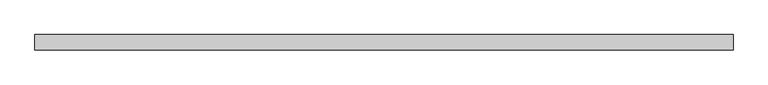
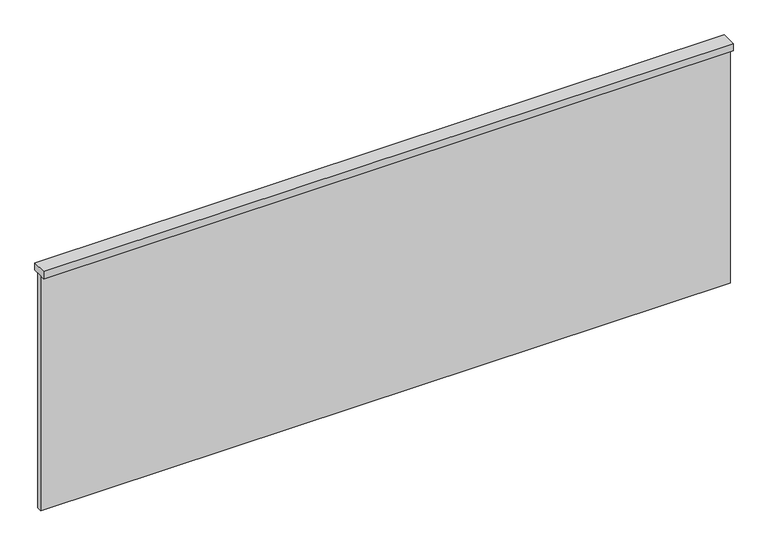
"""IFC4 building model written with IfcOpenShell, lengths in millimetres: proxy geometry, 防煙垂壁 : 可動防煙垂壁."""

from ifc_helpers import new_model, si_unit, frame, origin, place, context, project, spatial, polyline, outline, extrude, source, transform, mapped, element, save


def generic_models_62cbec98(model_context):
    return source(origin(), model_context, "Body", "SweptSolid", [
        extrude(outline(polyline([(5.0, 0.0), (-5.0, 0.0), (-5.0, 1345.0), (5.0, 1345.0), (5.0, 0.0)])), frame((1345.0, 0.0, 1800.0), z_axis=(0.0, -1.3535839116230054e-12, 1.0), x_axis=(0.0, 1.0, 1.3535839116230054e-12)), (0.0, 0.0, 1.0), 485.0),
        extrude(outline(polyline([(1345.0, 15.0), (1345.0, -15.0), (0.0, -15.0), (0.0, 15.0), (1345.0, 15.0)])), frame((0.0, 0.0, 2285.0), z_axis=(0.0, 0.0, 1.0), x_axis=(1.0, 0.0, 0.0)), (0.0, 0.0, 1.0), 15.0),
    ])


if __name__ == "__main__":
    model = new_model("IFC4")
    model_context = context("Model", 3, world=origin())
    ifc_project = project(units=[si_unit("LENGTHUNIT", "METRE", prefix="MILLI")], contexts=[model_context])
    site = spatial("IfcSite", under=ifc_project)
    building = spatial("IfcBuilding", under=site)
    placement = place(None, origin())
    generic_models_shape = generic_models_62cbec98(model_context)
    element("IfcBuildingElementProxy", 1, Name="防煙垂壁 : 可動防煙垂壁", ObjectType="防煙垂壁 : 可動防煙垂壁", at=placement, inside=building, context=model_context, shape_type="MappedRepresentation", body=[
        mapped(generic_models_shape, transform((0.0, 0.0, 0.0), x_axis=(1.0, 0.0, 0.0), y_axis=(0.0, 1.0, 0.0), z_axis=(0.0, 0.0, 1.0))),
    ])
    save(model, "model.ifc")
